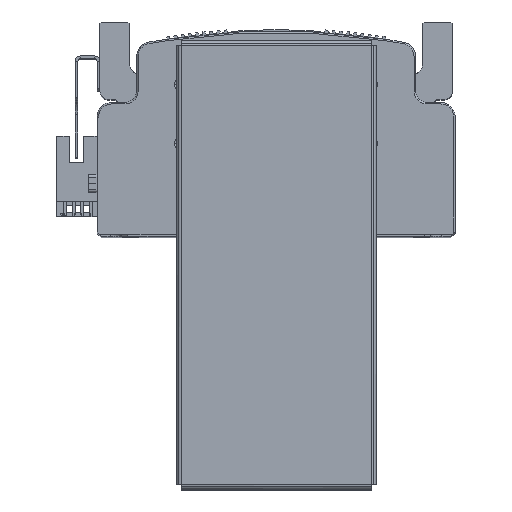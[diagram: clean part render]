
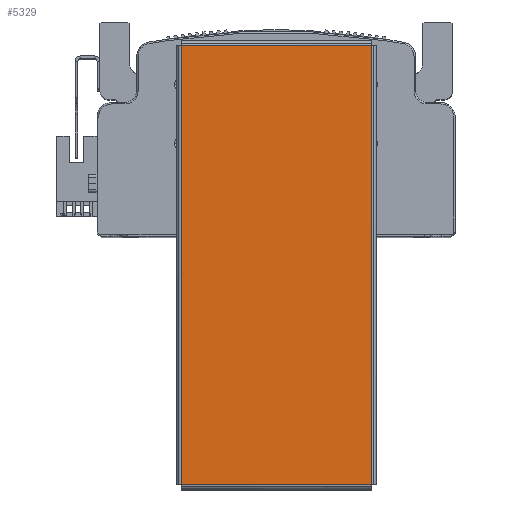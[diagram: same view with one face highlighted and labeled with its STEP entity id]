
A CAD part, top view. The second image highlights one B-rep face of the part: STEP entity #5329.
In plain terms, the highlighted planar face has unit normal (0, 0, 1) as drawn and (0, 0, -1) by its records, which use the part's own axes.
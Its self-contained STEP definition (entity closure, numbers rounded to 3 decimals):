
#3331 = CARTESIAN_POINT ( 'NONE',  ( 74.763, 32.363, -1. ) ) ;
#3337 = CARTESIAN_POINT ( 'NONE',  ( -74.763, 32.363, -1. ) ) ;
#3345 = CARTESIAN_POINT ( 'NONE',  ( 74.763, -32.363, -1. ) ) ;
#3376 = CARTESIAN_POINT ( 'NONE',  ( -74.763, -32.363, -1. ) ) ;
#5329 = ADVANCED_FACE ( 'NONE', ( #43018 ), #60803, .F. ) ;
#8754 = AXIS2_PLACEMENT_3D ( 'NONE', #60816, #60806, #60796 ) ;
#14433 = EDGE_CURVE ( 'NONE', #63021, #62990, #44465, .T. ) ;
#14480 = EDGE_CURVE ( 'NONE', #62990, #62942, #44487, .T. ) ;
#14525 = EDGE_CURVE ( 'NONE', #62942, #63161, #44559, .T. ) ;
#14551 = EDGE_CURVE ( 'NONE', #63161, #63021, #44594, .T. ) ;
#35592 = CARTESIAN_POINT ( 'NONE',  ( -74.793, 32.363, -1. ) ) ;
#35593 = DIRECTION ( 'NONE',  ( 1., 0., 0. ) ) ;
#35745 = CARTESIAN_POINT ( 'NONE',  ( 74.763, 32.393, -1. ) ) ;
#35779 = DIRECTION ( 'NONE',  ( 0., -1., 0. ) ) ;
#35852 = DIRECTION ( 'NONE',  ( -1., 0., 0. ) ) ;
#35871 = CARTESIAN_POINT ( 'NONE',  ( 74.793, -32.363, -1. ) ) ;
#35952 = CARTESIAN_POINT ( 'NONE',  ( -74.763, -32.393, -1. ) ) ;
#35955 = DIRECTION ( 'NONE',  ( 0., 1., 0. ) ) ;
#40218 = ORIENTED_EDGE ( 'NONE', *, *, #14480, .T. ) ;
#40225 = ORIENTED_EDGE ( 'NONE', *, *, #14433, .T. ) ;
#40231 = ORIENTED_EDGE ( 'NONE', *, *, #14551, .T. ) ;
#40268 = ORIENTED_EDGE ( 'NONE', *, *, #14525, .T. ) ;
#41990 = EDGE_LOOP ( 'NONE', ( #40218, #40268, #40231, #40225 ) ) ;
#43018 = FACE_OUTER_BOUND ( 'NONE', #41990, .T. ) ;
#44465 = LINE ( 'NONE', #35592, #44506 ) ;
#44487 = LINE ( 'NONE', #35745, #44505 ) ;
#44505 = VECTOR ( 'NONE', #35779, 1000. ) ;
#44506 = VECTOR ( 'NONE', #35593, 1000. ) ;
#44559 = LINE ( 'NONE', #35871, #44592 ) ;
#44575 = VECTOR ( 'NONE', #35955, 1000. ) ;
#44592 = VECTOR ( 'NONE', #35852, 1000. ) ;
#44594 = LINE ( 'NONE', #35952, #44575 ) ;
#60796 = DIRECTION ( 'NONE',  ( 1., 0., 0. ) ) ;
#60803 = PLANE ( 'NONE',  #8754 ) ;
#60806 = DIRECTION ( 'NONE',  ( 0., 0., 1. ) ) ;
#60816 = CARTESIAN_POINT ( 'NONE',  ( 0., 0., -1. ) ) ;
#62942 = VERTEX_POINT ( 'NONE', #3345 ) ;
#62990 = VERTEX_POINT ( 'NONE', #3331 ) ;
#63021 = VERTEX_POINT ( 'NONE', #3337 ) ;
#63161 = VERTEX_POINT ( 'NONE', #3376 ) ;
